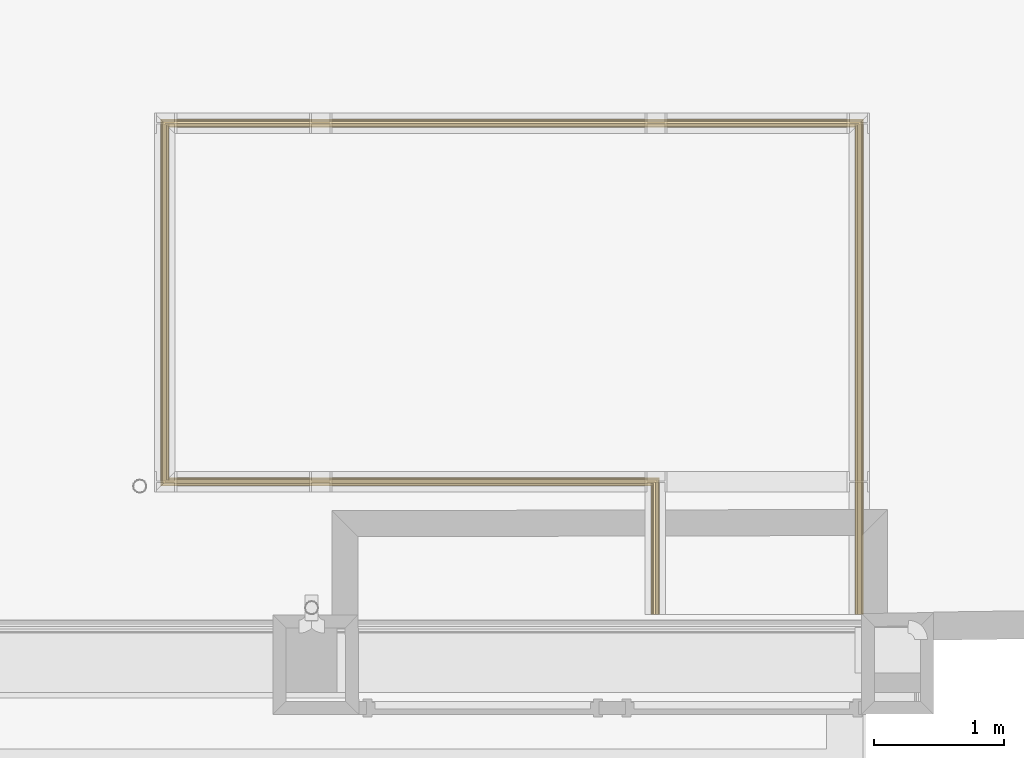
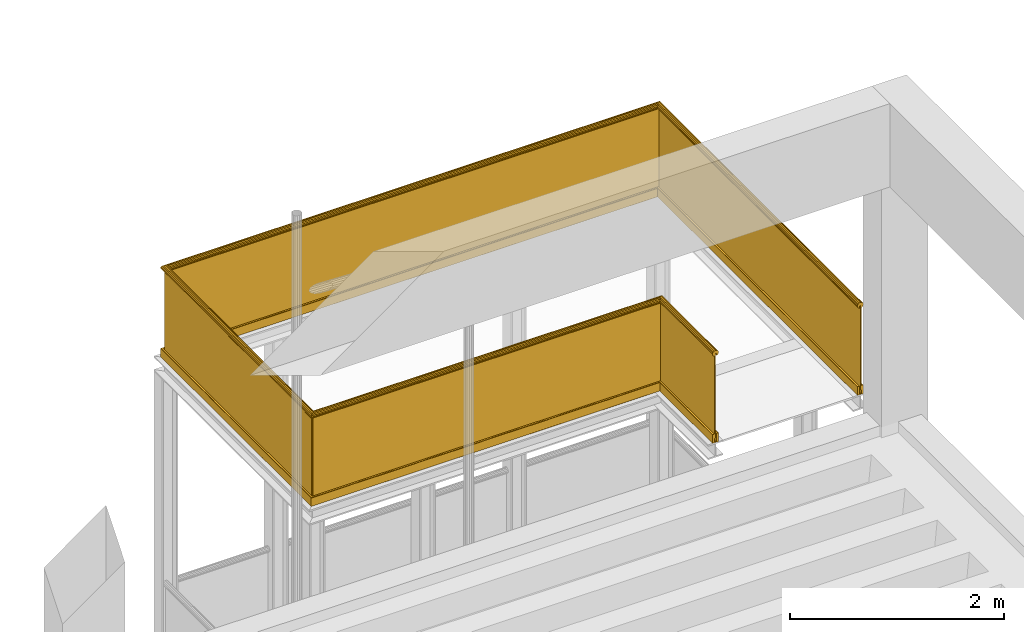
# One storey, part 33 of 108: 1 railing.
"""IFC2X3 building model written with IfcOpenShell, lengths in metres."""

from ifc_helpers import new_model, entity, si_unit, converted_unit, derived_unit, money_unit, direction, frame, origin_with_axes, place, context, subcontext, project, spatial, faceted_brep, material, type_object, element, save


model = new_model("IFC2X3")

# Units and contexts
model_context = context("Model", 3, precision=1e-05, world=origin_with_axes(), true_north=direction((0.0, 1.0)))
body_context = subcontext(model_context, "Body", "Model", "MODEL_VIEW", scale=1.0)
ifc_project = project(units=[si_unit("LENGTHUNIT", "METRE"), si_unit("AREAUNIT", "SQUARE_METRE"), si_unit("VOLUMEUNIT", "CUBIC_METRE"), si_unit("ABSORBEDDOSEUNIT", "GRAY"), si_unit("AMOUNTOFSUBSTANCEUNIT", "MOLE"), si_unit("DOSEEQUIVALENTUNIT", "SIEVERT"), si_unit("ELECTRICCAPACITANCEUNIT", "FARAD"), si_unit("ELECTRICCHARGEUNIT", "COULOMB"), si_unit("ELECTRICCONDUCTANCEUNIT", "SIEMENS"), si_unit("ELECTRICCURRENTUNIT", "AMPERE"), si_unit("ELECTRICRESISTANCEUNIT", "OHM"), si_unit("ELECTRICVOLTAGEUNIT", "VOLT"), si_unit("ENERGYUNIT", "JOULE"), si_unit("FORCEUNIT", "NEWTON"), si_unit("FREQUENCYUNIT", "HERTZ"), si_unit("ILLUMINANCEUNIT", "LUX"), si_unit("INDUCTANCEUNIT", "HENRY"), si_unit("LUMINOUSFLUXUNIT", "LUMEN"), si_unit("LUMINOUSINTENSITYUNIT", "CANDELA"), si_unit("MAGNETICFLUXDENSITYUNIT", "TESLA"), si_unit("MAGNETICFLUXUNIT", "WEBER"), si_unit("MASSUNIT", "GRAM"), converted_unit("PLANEANGLEUNIT", "degree", entity("IfcReal", 0.0174532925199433), si_unit("PLANEANGLEUNIT", "RADIAN"), dimensions=[0, 0, 0, 0, 0, 0, 0]), si_unit("POWERUNIT", "WATT"), si_unit("PRESSUREUNIT", "PASCAL"), si_unit("RADIOACTIVITYUNIT", "BECQUEREL"), si_unit("SOLIDANGLEUNIT", "STERADIAN"), si_unit("THERMODYNAMICTEMPERATUREUNIT", "KELVIN"), si_unit("TIMEUNIT", "SECOND"), derived_unit("ACCELERATIONUNIT", [(si_unit("LENGTHUNIT", "METRE"), 1), (si_unit("TIMEUNIT", "SECOND"), -2)]), derived_unit("ANGULARVELOCITYUNIT", [(converted_unit("PLANEANGLEUNIT", "degree", entity("IfcReal", 0.0174532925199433), si_unit("PLANEANGLEUNIT", "RADIAN"), dimensions=[0, 0, 0, 0, 0, 0, 0]), 1), (si_unit("TIMEUNIT", "SECOND"), -1)]), derived_unit("CURVATUREUNIT", [(converted_unit("PLANEANGLEUNIT", "degree", entity("IfcReal", 0.0174532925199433), si_unit("PLANEANGLEUNIT", "RADIAN"), dimensions=[0, 0, 0, 0, 0, 0, 0]), 1), (si_unit("LENGTHUNIT", "METRE"), -1)]), derived_unit("DYNAMICVISCOSITYUNIT", [(si_unit("PRESSUREUNIT", "PASCAL"), 1), (si_unit("TIMEUNIT", "SECOND"), 1)]), derived_unit("HEATFLUXDENSITYUNIT", [(si_unit("POWERUNIT", "WATT"), 1), (si_unit("LENGTHUNIT", "METRE"), -2)]), derived_unit("HEATINGVALUEUNIT", [(si_unit("ENERGYUNIT", "JOULE"), 1), (si_unit("MASSUNIT", "GRAM"), -1)]), derived_unit("INTEGERCOUNTRATEUNIT", [(si_unit("TIMEUNIT", "SECOND"), -1)]), derived_unit("IONCONCENTRATIONUNIT", [(si_unit("MASSUNIT", "GRAM"), 1), (si_unit("VOLUMEUNIT", "CUBIC_METRE"), -1)]), derived_unit("ISOTHERMALMOISTURECAPACITYUNIT", [(si_unit("VOLUMEUNIT", "CUBIC_METRE"), 1), (si_unit("MASSUNIT", "GRAM"), -1)]), derived_unit("KINEMATICVISCOSITYUNIT", [(si_unit("AREAUNIT", "SQUARE_METRE"), 1), (si_unit("TIMEUNIT", "SECOND"), -1)]), derived_unit("LINEARFORCEUNIT", [(si_unit("FORCEUNIT", "NEWTON"), 1), (si_unit("LENGTHUNIT", "METRE"), -1)]), derived_unit("LINEARMOMENTUNIT", [(si_unit("FORCEUNIT", "NEWTON"), 1), (si_unit("LENGTHUNIT", "METRE"), -1)]), derived_unit("LINEARSTIFFNESSUNIT", [(si_unit("FORCEUNIT", "NEWTON"), 1), (si_unit("LENGTHUNIT", "METRE"), -1)]), derived_unit("LINEARVELOCITYUNIT", [(si_unit("LENGTHUNIT", "METRE"), 1), (si_unit("TIMEUNIT", "SECOND"), -1)]), derived_unit("LUMINOUSINTENSITYDISTRIBUTIONUNIT", [(si_unit("LUMINOUSINTENSITYUNIT", "CANDELA"), 1), (si_unit("LUMINOUSFLUXUNIT", "LUMEN"), -1)]), derived_unit("MASSDENSITYUNIT", [(si_unit("MASSUNIT", "GRAM"), 1), (si_unit("VOLUMEUNIT", "CUBIC_METRE"), -1)]), derived_unit("MASSFLOWRATEUNIT", [(si_unit("MASSUNIT", "GRAM"), 1), (si_unit("TIMEUNIT", "SECOND"), -1)]), derived_unit("MASSPERLENGTHUNIT", [(si_unit("MASSUNIT", "GRAM"), 1), (si_unit("LENGTHUNIT", "METRE"), -1)]), derived_unit("MODULUSOFELASTICITYUNIT", [(si_unit("FORCEUNIT", "NEWTON"), 1), (si_unit("AREAUNIT", "SQUARE_METRE"), -1)]), derived_unit("MODULUSOFLINEARSUBGRADEREACTIONUNIT", [(si_unit("FORCEUNIT", "NEWTON"), 1), (si_unit("LENGTHUNIT", "METRE"), -2)]), derived_unit("MODULUSOFROTATIONALSUBGRADEREACTIONUNIT", [(si_unit("FORCEUNIT", "NEWTON"), 1), (si_unit("LENGTHUNIT", "METRE"), 1)]), derived_unit("MODULUSOFSUBGRADEREACTIONUNIT", [(si_unit("FORCEUNIT", "NEWTON"), 1), (si_unit("VOLUMEUNIT", "CUBIC_METRE"), -1)]), derived_unit("MOISTUREDIFFUSIVITYUNIT", [(si_unit("VOLUMEUNIT", "CUBIC_METRE"), 1), (si_unit("TIMEUNIT", "SECOND"), -1)]), derived_unit("MOLECULARWEIGHTUNIT", [(si_unit("MASSUNIT", "GRAM"), 1), (si_unit("AMOUNTOFSUBSTANCEUNIT", "MOLE"), -1)]), derived_unit("PLANARFORCEUNIT", [(si_unit("FORCEUNIT", "NEWTON"), 1), (si_unit("LENGTHUNIT", "METRE"), -2)]), derived_unit("ROTATIONALFREQUENCYUNIT", [(si_unit("TIMEUNIT", "SECOND"), -1)]), derived_unit("ROTATIONALMASSUNIT", [(si_unit("MASSUNIT", "GRAM"), 1), (si_unit("LENGTHUNIT", "METRE"), 2)]), derived_unit("ROTATIONALSTIFFNESSUNIT", [(si_unit("FORCEUNIT", "NEWTON"), 1), (si_unit("LENGTHUNIT", "METRE"), 1), (converted_unit("PLANEANGLEUNIT", "degree", entity("IfcReal", 0.0174532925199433), si_unit("PLANEANGLEUNIT", "RADIAN"), dimensions=[0, 0, 0, 0, 0, 0, 0]), -1)]), derived_unit("SECTIONAREAINTEGRALUNIT", [(si_unit("LENGTHUNIT", "METRE"), 5)]), derived_unit("SECTIONMODULUSUNIT", [(si_unit("LENGTHUNIT", "METRE"), 3)]), derived_unit("SHEARMODULUSUNIT", [(si_unit("FORCEUNIT", "NEWTON"), 1), (si_unit("AREAUNIT", "SQUARE_METRE"), -1)]), derived_unit("SOUNDPOWERUNIT", [(si_unit("ENERGYUNIT", "JOULE"), 1), (si_unit("TIMEUNIT", "SECOND"), -1)]), derived_unit("SPECIFICHEATCAPACITYUNIT", [(si_unit("FORCEUNIT", "NEWTON"), 1), (si_unit("MASSUNIT", "GRAM"), -1), (si_unit("THERMODYNAMICTEMPERATUREUNIT", "KELVIN"), -1)]), derived_unit("TEMPERATUREGRADIENTUNIT", [(si_unit("THERMODYNAMICTEMPERATUREUNIT", "KELVIN"), 1), (si_unit("LENGTHUNIT", "METRE"), -1)]), derived_unit("THERMALADMITTANCEUNIT", [(si_unit("POWERUNIT", "WATT"), 1), (si_unit("AREAUNIT", "SQUARE_METRE"), -1), (si_unit("THERMODYNAMICTEMPERATUREUNIT", "KELVIN"), -1)]), derived_unit("THERMALCONDUCTANCEUNIT", [(si_unit("POWERUNIT", "WATT"), 1), (si_unit("LENGTHUNIT", "METRE"), -1), (si_unit("THERMODYNAMICTEMPERATUREUNIT", "KELVIN"), -1)]), derived_unit("THERMALEXPANSIONCOEFFICIENTUNIT", [(si_unit("THERMODYNAMICTEMPERATUREUNIT", "KELVIN"), -1)]), derived_unit("THERMALRESISTANCEUNIT", [(si_unit("AREAUNIT", "SQUARE_METRE"), 1), (si_unit("POWERUNIT", "WATT"), -1)]), derived_unit("THERMALTRANSMITTANCEUNIT", [(si_unit("POWERUNIT", "WATT"), 1), (si_unit("AREAUNIT", "SQUARE_METRE"), -1), (si_unit("THERMODYNAMICTEMPERATUREUNIT", "KELVIN"), -1)]), derived_unit("TORQUEUNIT", [(si_unit("FORCEUNIT", "NEWTON"), 1), (si_unit("LENGTHUNIT", "METRE"), 1)]), derived_unit("VAPORPERMEABILITYUNIT", [(si_unit("MASSUNIT", "GRAM"), 1), (si_unit("TIMEUNIT", "SECOND"), -1)]), derived_unit("VOLUMETRICFLOWRATEUNIT", [(si_unit("VOLUMEUNIT", "CUBIC_METRE"), 1), (si_unit("TIMEUNIT", "SECOND"), -1)]), derived_unit("WARPINGCONSTANTUNIT", [(si_unit("LENGTHUNIT", "METRE"), 6)]), derived_unit("WARPINGMOMENTUNIT", [(si_unit("FORCEUNIT", "NEWTON"), 1), (si_unit("LENGTHUNIT", "METRE"), 2)]), money_unit("GBP")], contexts=[model_context])

# Site, building, storey
site_placement = place(None, origin_with_axes())
site = spatial("IfcSite", under=ifc_project, at=site_placement, Name="Site", CompositionType="ELEMENT")
building_placement = place(site_placement, origin_with_axes())
building = spatial("IfcBuilding", under=site, at=building_placement, Name="Building01", CompositionType="ELEMENT")
storey_placement = place(building_placement, origin_with_axes())
storey = spatial("IfcBuildingStorey", under=building, at=storey_placement, Name="GF", CompositionType="ELEMENT", Elevation=0.0)

# Railing
ifc_material = material(Name="A_BSUK_Steel_Miscellaneous")
railing_type = type_object("IfcRailingType", Name="A-RailingGlassPanel-1050mm", PredefinedType="NOTDEFINED")
railing_placement = place(storey_placement, frame((26.411335, 14.9, 12.171013), z_axis=(0.0, 0.0, 1.0), x_axis=(1.0, 0.0, 0.0)))
element("IfcRailing", 1, at=railing_placement, inside=storey, type_object=railing_type, material=ifc_material, Name="A-RailingGlassPanel-1050mm", ObjectType="A-RailingGlassPanel-1050mm", PredefinedType="HANDRAIL", context=body_context, shape_type="Brep", body=[
    faceted_brep([(0.0125, 3.776081, 1.0125), (-0.0125, 3.751081, 1.0125), (-0.0125, 3.751081, 0.9875), (-0.023022, 3.740559, 0.99456), (-0.030045, 3.733536, 1.005108), (-0.0325, 3.731081, 1.017539), (-0.030015, 3.733566, 1.029964), (-0.022967, 3.740614, 1.040495), (-0.012428, 3.751153, 1.04753), (0.0, 3.763581, 1.05), (0.012428, 3.776009, 1.04753), (0.022967, 3.786548, 1.040495), (0.030015, 3.793596, 1.029964), (0.0325, 3.796081, 1.017539), (0.030045, 3.793625, 1.005108), (0.023022, 3.786603, 0.99456), (0.0125, 3.776081, 0.9875), (0.023022, 0.0, 0.99456), (0.0125, 0.0, 0.9875), (0.030045, 0.0, 1.005108), (0.0325, 0.0, 1.017539), (0.030015, 0.0, 1.029964), (0.022967, 0.0, 1.040495), (0.012428, 0.0, 1.04753), (0.0, 0.0, 1.05), (-0.012428, 0.0, 1.04753), (-0.022967, 0.0, 1.040495), (-0.030015, 0.0, 1.029964), (-0.0325, 0.0, 1.017539), (-0.030045, 0.0, 1.005108), (-0.023022, 0.0, 0.99456), (-0.0125, 0.0, 0.9875), (-0.0125, 0.0, 1.0125), (0.0125, 0.0, 1.0125)], [[[0, 1, 2, 3, 4, 5, 6, 7, 8, 9, 10, 11, 12, 13, 14, 15, 16]], [[15, 17, 18, 16]], [[14, 19, 17, 15]], [[13, 20, 19, 14]], [[12, 21, 20, 13]], [[11, 22, 21, 12]], [[10, 23, 22, 11]], [[9, 24, 23, 10]], [[8, 25, 24, 9]], [[7, 26, 25, 8]], [[6, 27, 26, 7]], [[5, 28, 27, 6]], [[4, 29, 28, 5]], [[3, 30, 29, 4]], [[2, 31, 30, 3]], [[1, 32, 31, 2]], [[0, 33, 32, 1]], [[16, 18, 33, 0]], [[18, 17, 19, 20, 21, 22, 23, 24, 25, 26, 27, 28, 29, 30, 31, 32, 33]]]),
    faceted_brep([(-5.333701, 3.776081, 1.0125), (-5.308701, 3.751081, 1.0125), (-5.308701, 3.751081, 0.9875), (-5.298179, 3.740559, 0.99456), (-5.291156, 3.733536, 1.005108), (-5.288701, 3.731081, 1.017539), (-5.291186, 3.733566, 1.029964), (-5.298234, 3.740614, 1.040495), (-5.308773, 3.751153, 1.04753), (-5.321201, 3.763581, 1.05), (-5.333629, 3.776009, 1.04753), (-5.344168, 3.786548, 1.040495), (-5.351216, 3.793596, 1.029964), (-5.353701, 3.796081, 1.017539), (-5.351246, 3.793625, 1.005108), (-5.344223, 3.786603, 0.99456), (-5.333701, 3.776081, 0.9875), (0.0125, 3.776081, 0.9875), (0.023022, 3.786603, 0.99456), (0.030045, 3.793625, 1.005108), (0.0325, 3.796081, 1.017539), (0.030015, 3.793596, 1.029964), (0.022967, 3.786548, 1.040495), (0.012428, 3.776009, 1.04753), (0.0, 3.763581, 1.05), (-0.012428, 3.751153, 1.04753), (-0.022967, 3.740614, 1.040495), (-0.030015, 3.733566, 1.029964), (-0.0325, 3.731081, 1.017539), (-0.030045, 3.733536, 1.005108), (-0.023022, 3.740559, 0.99456), (-0.0125, 3.751081, 0.9875), (-0.0125, 3.751081, 1.0125), (0.0125, 3.776081, 1.0125)], [[[0, 1, 2, 3, 4, 5, 6, 7, 8, 9, 10, 11, 12, 13, 14, 15, 16]], [[17, 18, 19, 20, 21, 22, 23, 24, 25, 26, 27, 28, 29, 30, 31, 32, 33]], [[30, 3, 2, 31]], [[29, 4, 3, 30]], [[28, 5, 4, 29]], [[27, 6, 5, 28]], [[26, 7, 6, 27]], [[25, 8, 7, 26]], [[24, 9, 8, 25]], [[23, 10, 9, 24]], [[22, 11, 10, 23]], [[21, 12, 11, 22]], [[20, 13, 12, 21]], [[19, 14, 13, 20]], [[18, 15, 14, 19]], [[17, 16, 15, 18]], [[1, 32, 31, 2]], [[0, 33, 32, 1]], [[16, 17, 33, 0]]]),
    faceted_brep([(-5.333701, 1.003423, 1.0125), (-5.308701, 1.028423, 1.0125), (-5.308701, 1.028423, 0.9875), (-5.298179, 1.038945, 0.99456), (-5.291156, 1.045967, 1.005108), (-5.288701, 1.048423, 1.017539), (-5.291186, 1.045938, 1.029964), (-5.298234, 1.03889, 1.040495), (-5.308773, 1.028351, 1.04753), (-5.321201, 1.015923, 1.05), (-5.333629, 1.003495, 1.04753), (-5.344168, 0.992956, 1.040495), (-5.351216, 0.985908, 1.029964), (-5.353701, 0.983423, 1.017539), (-5.351246, 0.985878, 1.005108), (-5.344223, 0.992901, 0.99456), (-5.333701, 1.003423, 0.9875), (-5.333701, 3.776081, 0.9875), (-5.344223, 3.786603, 0.99456), (-5.351246, 3.793625, 1.005108), (-5.353701, 3.796081, 1.017539), (-5.351216, 3.793596, 1.029964), (-5.344168, 3.786548, 1.040495), (-5.333629, 3.776009, 1.04753), (-5.321201, 3.763581, 1.05), (-5.308773, 3.751153, 1.04753), (-5.298234, 3.740614, 1.040495), (-5.291186, 3.733566, 1.029964), (-5.288701, 3.731081, 1.017539), (-5.291156, 3.733536, 1.005108), (-5.298179, 3.740559, 0.99456), (-5.308701, 3.751081, 0.9875), (-5.308701, 3.751081, 1.0125), (-5.333701, 3.776081, 1.0125)], [[[0, 1, 2, 3, 4, 5, 6, 7, 8, 9, 10, 11, 12, 13, 14, 15, 16]], [[17, 18, 19, 20, 21, 22, 23, 24, 25, 26, 27, 28, 29, 30, 31, 32, 33]], [[30, 3, 2, 31]], [[29, 4, 3, 30]], [[28, 5, 4, 29]], [[27, 6, 5, 28]], [[26, 7, 6, 27]], [[25, 8, 7, 26]], [[24, 9, 8, 25]], [[23, 10, 9, 24]], [[22, 11, 10, 23]], [[21, 12, 11, 22]], [[20, 13, 12, 21]], [[19, 14, 13, 20]], [[18, 15, 14, 19]], [[17, 16, 15, 18]], [[1, 32, 31, 2]], [[0, 33, 32, 1]], [[16, 17, 33, 0]]]),
    faceted_brep([(-1.5753, 1.003423, 1.0125), (-1.5503, 1.028423, 1.0125), (-1.5503, 1.028423, 0.9875), (-1.539778, 1.038945, 0.99456), (-1.532755, 1.045967, 1.005108), (-1.5303, 1.048423, 1.017539), (-1.532785, 1.045938, 1.029964), (-1.539833, 1.03889, 1.040495), (-1.550372, 1.028351, 1.04753), (-1.5628, 1.015923, 1.05), (-1.575228, 1.003495, 1.04753), (-1.585767, 0.992956, 1.040495), (-1.592815, 0.985908, 1.029964), (-1.5953, 0.983423, 1.017539), (-1.592845, 0.985878, 1.005108), (-1.585822, 0.992901, 0.99456), (-1.5753, 1.003423, 0.9875), (-5.333701, 1.003423, 0.9875), (-5.344223, 0.992901, 0.99456), (-5.351246, 0.985878, 1.005108), (-5.353701, 0.983423, 1.017539), (-5.351216, 0.985908, 1.029964), (-5.344168, 0.992956, 1.040495), (-5.333629, 1.003495, 1.04753), (-5.321201, 1.015923, 1.05), (-5.308773, 1.028351, 1.04753), (-5.298234, 1.03889, 1.040495), (-5.291186, 1.045938, 1.029964), (-5.288701, 1.048423, 1.017539), (-5.291156, 1.045967, 1.005108), (-5.298179, 1.038945, 0.99456), (-5.308701, 1.028423, 0.9875), (-5.308701, 1.028423, 1.0125), (-5.333701, 1.003423, 1.0125)], [[[0, 1, 2, 3, 4, 5, 6, 7, 8, 9, 10, 11, 12, 13, 14, 15, 16]], [[17, 18, 19, 20, 21, 22, 23, 24, 25, 26, 27, 28, 29, 30, 31, 32, 33]], [[30, 3, 2, 31]], [[29, 4, 3, 30]], [[28, 5, 4, 29]], [[27, 6, 5, 28]], [[26, 7, 6, 27]], [[25, 8, 7, 26]], [[24, 9, 8, 25]], [[23, 10, 9, 24]], [[22, 11, 10, 23]], [[21, 12, 11, 22]], [[20, 13, 12, 21]], [[19, 14, 13, 20]], [[18, 15, 14, 19]], [[17, 16, 15, 18]], [[1, 32, 31, 2]], [[0, 33, 32, 1]], [[16, 17, 33, 0]]]),
    faceted_brep([(-1.5753, 1.003423, 0.9875), (-1.585822, 0.992901, 0.99456), (-1.592845, 0.985878, 1.005108), (-1.5953, 0.983423, 1.017539), (-1.592815, 0.985908, 1.029964), (-1.585767, 0.992956, 1.040495), (-1.575228, 1.003495, 1.04753), (-1.5628, 1.015923, 1.05), (-1.550372, 1.028351, 1.04753), (-1.539833, 1.03889, 1.040495), (-1.532785, 1.045938, 1.029964), (-1.5303, 1.048423, 1.017539), (-1.532755, 1.045967, 1.005108), (-1.539778, 1.038945, 0.99456), (-1.5503, 1.028423, 0.9875), (-1.5503, 1.028423, 1.0125), (-1.5753, 1.003423, 1.0125), (-1.539778, 0.0, 0.99456), (-1.5503, 0.0, 0.9875), (-1.532755, 0.0, 1.005108), (-1.5303, 0.0, 1.017539), (-1.532785, 0.0, 1.029964), (-1.539833, 0.0, 1.040495), (-1.550372, 0.0, 1.04753), (-1.5628, 0.0, 1.05), (-1.575228, 0.0, 1.04753), (-1.585767, 0.0, 1.040495), (-1.592815, 0.0, 1.029964), (-1.5953, 0.0, 1.017539), (-1.592845, 0.0, 1.005108), (-1.585822, 0.0, 0.99456), (-1.5753, 0.0, 0.9875), (-1.5503, 0.0, 1.0125), (-1.5753, 0.0, 1.0125)], [[[0, 1, 2, 3, 4, 5, 6, 7, 8, 9, 10, 11, 12, 13, 14, 15, 16]], [[13, 17, 18, 14]], [[12, 19, 17, 13]], [[11, 20, 19, 12]], [[10, 21, 20, 11]], [[9, 22, 21, 10]], [[8, 23, 22, 9]], [[7, 24, 23, 8]], [[6, 25, 24, 7]], [[5, 26, 25, 6]], [[4, 27, 26, 5]], [[3, 28, 27, 4]], [[2, 29, 28, 3]], [[1, 30, 29, 2]], [[0, 31, 30, 1]], [[14, 18, 32, 15]], [[15, 32, 33, 16]], [[16, 33, 31, 0]], [[33, 32, 18, 17, 19, 20, 21, 22, 23, 24, 25, 26, 27, 28, 29, 30, 31]]]),
    faceted_brep([(-0.0295, 3.734081, 0.099925), (-0.0295, 0.0, 0.099925), (-0.0125, 0.0, 0.099925), (-0.0125, 3.751081, 0.099925), (-0.030648, 3.732933, 0.099697), (-0.030648, 0.0, 0.099697), (-0.031253, 3.732328, 0.098792), (-0.031621, 0.0, 0.099046), (-0.031895, 3.731685, 0.09783), (-0.032272, 0.0, 0.098073), (-0.0325, 3.731081, 0.096925), (-0.0325, 0.0, 0.096925), (-0.0325, 3.731081, 0.003), (-0.0325, 0.0, 0.003), (-0.0125, 3.751081, 0.01), (0.0125, 3.776081, 0.01), (0.0125, 3.776081, 0.099925), (0.0295, 3.793081, 0.099925), (0.030409, 3.79399, 0.099317), (0.031362, 3.794943, 0.098681), (0.032272, 3.795852, 0.098073), (0.0325, 3.796081, 0.096925), (0.0325, 3.796081, 0.003), (0.031895, 3.795476, 0.002095), (0.031253, 3.794834, 0.001133), (0.030648, 3.794229, 0.000228), (0.0295, 3.793081, 0.0), (-0.0295, 3.734081, 0.0), (-0.030409, 3.733171, 0.000608), (-0.031362, 3.732218, 0.001244), (-0.032272, 3.731309, 0.001852), (0.0295, 0.0, 0.0), (0.030648, 0.0, 0.000228), (0.031621, 0.0, 0.000879), (0.032272, 0.0, 0.001852), (0.0325, 0.0, 0.003), (0.0325, 0.0, 0.096925), (0.032272, 0.0, 0.098073), (0.031621, 0.0, 0.099046), (0.030648, 0.0, 0.099697), (0.0295, 0.0, 0.099925), (0.0125, 0.0, 0.099925), (0.0125, 0.0, 0.01), (-0.0125, 0.0, 0.01), (-0.032272, 0.0, 0.001852), (-0.031621, 0.0, 0.000879), (-0.030648, 0.0, 0.000228), (-0.0295, 0.0, 0.0)], [[[0, 1, 2, 3]], [[4, 5, 1, 0]], [[6, 7, 5]], [[8, 9, 7]], [[10, 11, 9]], [[9, 8, 10]], [[7, 6, 8]], [[5, 4, 6]], [[12, 13, 11, 10]], [[14, 15, 16, 17, 18, 19, 20, 21, 22, 23, 24, 25, 26, 27, 28, 29, 30, 12, 10, 8, 6, 4, 0, 3]], [[31, 32, 33, 34, 35, 36, 37, 38, 39, 40, 41, 42, 43, 2, 1, 5, 7, 9, 11, 13, 44, 45, 46, 47]], [[30, 44, 13, 12]], [[30, 29, 45]], [[29, 28, 46]], [[28, 27, 47]], [[47, 46, 28]], [[46, 45, 29]], [[45, 44, 30]], [[26, 31, 47, 27]], [[25, 32, 31, 26]], [[25, 24, 33]], [[24, 23, 34]], [[23, 22, 35]], [[35, 34, 23]], [[34, 33, 24]], [[33, 32, 25]], [[21, 36, 35, 22]], [[20, 37, 36, 21]], [[19, 38, 37]], [[18, 39, 38]], [[17, 40, 39]], [[39, 18, 17]], [[38, 19, 18]], [[37, 20, 19]], [[16, 41, 40, 17]], [[15, 42, 41, 16]], [[14, 43, 42, 15]], [[3, 2, 43, 14]]]),
    faceted_brep([(-5.291701, 3.734081, 0.099925), (-0.0295, 3.734081, 0.099925), (-0.0125, 3.751081, 0.099925), (-5.308701, 3.751081, 0.099925), (-5.288701, 3.731081, 0.096925), (-0.0325, 3.731081, 0.096925), (-0.032272, 3.731309, 0.098073), (-0.031362, 3.732218, 0.098681), (-5.289948, 3.732328, 0.098792), (-0.030409, 3.733171, 0.099317), (-5.290553, 3.732933, 0.099697), (-5.289306, 3.731685, 0.09783), (-5.288701, 3.731081, 0.003), (-0.0325, 3.731081, 0.003), (-5.308701, 3.751081, 0.01), (-5.333701, 3.776081, 0.01), (-5.333701, 3.776081, 0.099925), (-5.350701, 3.793081, 0.099925), (-5.35161, 3.79399, 0.099317), (-5.352563, 3.794943, 0.098681), (-5.353473, 3.795852, 0.098073), (-5.353701, 3.796081, 0.096925), (-5.353701, 3.796081, 0.003), (-5.353096, 3.795476, 0.002095), (-5.352454, 3.794834, 0.001133), (-5.351849, 3.794229, 0.000228), (-5.350701, 3.793081, 0.0), (-5.291701, 3.734081, 0.0), (-5.290792, 3.733171, 0.000608), (-5.289839, 3.732218, 0.001244), (-5.288929, 3.731309, 0.001852), (-0.031895, 3.731685, 0.002095), (-0.031253, 3.732328, 0.001133), (-0.030648, 3.732933, 0.000228), (-0.0295, 3.734081, 0.0), (0.0295, 3.793081, 0.0), (0.030409, 3.79399, 0.000608), (0.031362, 3.794943, 0.001244), (0.032272, 3.795852, 0.001852), (0.0325, 3.796081, 0.003), (0.0325, 3.796081, 0.096925), (0.031895, 3.795476, 0.09783), (0.031253, 3.794834, 0.098792), (0.030648, 3.794229, 0.099697), (0.0295, 3.793081, 0.099925), (0.0125, 3.776081, 0.099925), (0.0125, 3.776081, 0.01), (-0.0125, 3.751081, 0.01)], [[[0, 1, 2, 3]], [[4, 5, 6]], [[6, 7, 8]], [[7, 9, 10]], [[10, 9, 1]], [[1, 0, 10]], [[10, 8, 7]], [[8, 11, 6]], [[6, 11, 4]], [[12, 13, 5, 4]], [[14, 15, 16, 17, 18, 19, 20, 21, 22, 23, 24, 25, 26, 27, 28, 29, 30, 12, 4, 11, 8, 10, 0, 3]], [[2, 1, 9, 7, 6, 5, 13, 31, 32, 33, 34, 35, 36, 37, 38, 39, 40, 41, 42, 43, 44, 45, 46, 47]], [[33, 28, 27]], [[29, 28, 33]], [[30, 29, 32]], [[13, 12, 30]], [[30, 31, 13]], [[32, 31, 30]], [[33, 32, 29]], [[27, 34, 33]], [[26, 35, 34, 27]], [[23, 22, 39]], [[37, 24, 23]], [[36, 25, 24]], [[26, 25, 36]], [[36, 35, 26]], [[24, 37, 36]], [[23, 38, 37]], [[39, 38, 23]], [[21, 40, 39, 22]], [[44, 43, 18]], [[18, 43, 42]], [[19, 42, 41]], [[41, 40, 21]], [[21, 20, 41]], [[41, 20, 19]], [[42, 19, 18]], [[18, 17, 44]], [[16, 45, 44, 17]], [[15, 46, 45, 16]], [[14, 47, 46, 15]], [[3, 2, 47, 14]]]),
    faceted_brep([(-5.291701, 1.045423, 0.099925), (-5.291701, 3.734081, 0.099925), (-5.308701, 3.751081, 0.099925), (-5.308701, 1.028423, 0.099925), (-5.288701, 1.048423, 0.096925), (-5.288701, 3.731081, 0.096925), (-5.288929, 3.731309, 0.098073), (-5.289839, 3.732218, 0.098681), (-5.289948, 1.047176, 0.098792), (-5.290792, 3.733171, 0.099317), (-5.290553, 1.046571, 0.099697), (-5.289306, 1.047818, 0.09783), (-5.288701, 1.048423, 0.003), (-5.288701, 3.731081, 0.003), (-5.308701, 1.028423, 0.01), (-5.333701, 1.003423, 0.01), (-5.333701, 1.003423, 0.099925), (-5.350701, 0.986423, 0.099925), (-5.35161, 0.985514, 0.099317), (-5.352563, 0.98456, 0.098681), (-5.353473, 0.983651, 0.098073), (-5.353701, 0.983423, 0.096925), (-5.353701, 0.983423, 0.003), (-5.353096, 0.984028, 0.002095), (-5.352454, 0.98467, 0.001133), (-5.351849, 0.985275, 0.000228), (-5.350701, 0.986423, 0.0), (-5.291701, 1.045423, 0.0), (-5.290792, 1.046332, 0.000608), (-5.289839, 1.047285, 0.001244), (-5.288929, 1.048194, 0.001852), (-5.289306, 3.731685, 0.002095), (-5.289948, 3.732328, 0.001133), (-5.290553, 3.732933, 0.000228), (-5.291701, 3.734081, 0.0), (-5.350701, 3.793081, 0.0), (-5.35161, 3.79399, 0.000608), (-5.352563, 3.794943, 0.001244), (-5.353473, 3.795852, 0.001852), (-5.353701, 3.796081, 0.003), (-5.353701, 3.796081, 0.096925), (-5.353096, 3.795476, 0.09783), (-5.352454, 3.794834, 0.098792), (-5.351849, 3.794229, 0.099697), (-5.350701, 3.793081, 0.099925), (-5.333701, 3.776081, 0.099925), (-5.333701, 3.776081, 0.01), (-5.308701, 3.751081, 0.01)], [[[0, 1, 2, 3]], [[4, 5, 6]], [[6, 7, 8]], [[7, 9, 10]], [[10, 9, 1]], [[1, 0, 10]], [[10, 8, 7]], [[8, 11, 6]], [[6, 11, 4]], [[12, 13, 5, 4]], [[14, 15, 16, 17, 18, 19, 20, 21, 22, 23, 24, 25, 26, 27, 28, 29, 30, 12, 4, 11, 8, 10, 0, 3]], [[2, 1, 9, 7, 6, 5, 13, 31, 32, 33, 34, 35, 36, 37, 38, 39, 40, 41, 42, 43, 44, 45, 46, 47]], [[33, 28, 27]], [[29, 28, 33]], [[30, 29, 32]], [[13, 12, 30]], [[30, 31, 13]], [[32, 31, 30]], [[33, 32, 29]], [[27, 34, 33]], [[26, 35, 34, 27]], [[23, 22, 39]], [[37, 24, 23]], [[36, 25, 24]], [[26, 25, 36]], [[36, 35, 26]], [[24, 37, 36]], [[23, 38, 37]], [[39, 38, 23]], [[21, 40, 39, 22]], [[44, 43, 18]], [[18, 43, 42]], [[19, 42, 41]], [[41, 40, 21]], [[21, 20, 41]], [[41, 20, 19]], [[42, 19, 18]], [[18, 17, 44]], [[16, 45, 44, 17]], [[15, 46, 45, 16]], [[14, 47, 46, 15]], [[3, 2, 47, 14]]]),
    faceted_brep([(-1.5333, 1.045423, 0.099925), (-5.291701, 1.045423, 0.099925), (-5.308701, 1.028423, 0.099925), (-1.5503, 1.028423, 0.099925), (-1.530905, 1.047818, 0.09783), (-1.5303, 1.048423, 0.096925), (-5.288701, 1.048423, 0.096925), (-5.288929, 1.048194, 0.098073), (-5.289839, 1.047285, 0.098681), (-1.531547, 1.047176, 0.098792), (-5.290792, 1.046332, 0.099317), (-1.532152, 1.046571, 0.099697), (-1.5303, 1.048423, 0.003), (-5.288701, 1.048423, 0.003), (-1.5503, 1.028423, 0.01), (-1.5753, 1.003423, 0.01), (-1.5753, 1.003423, 0.099925), (-1.5923, 0.986423, 0.099925), (-1.593209, 0.985514, 0.099317), (-1.594162, 0.98456, 0.098681), (-1.595072, 0.983651, 0.098073), (-1.5953, 0.983423, 0.096925), (-1.5953, 0.983423, 0.003), (-1.594695, 0.984028, 0.002095), (-1.594053, 0.98467, 0.001133), (-1.593448, 0.985275, 0.000228), (-1.5923, 0.986423, 0.0), (-1.5333, 1.045423, 0.0), (-1.532391, 1.046332, 0.000608), (-1.531438, 1.047285, 0.001244), (-1.530528, 1.048194, 0.001852), (-5.289306, 1.047818, 0.002095), (-5.289948, 1.047176, 0.001133), (-5.290553, 1.046571, 0.000228), (-5.291701, 1.045423, 0.0), (-5.350701, 0.986423, 0.0), (-5.35161, 0.985514, 0.000608), (-5.352563, 0.98456, 0.001244), (-5.353473, 0.983651, 0.001852), (-5.353701, 0.983423, 0.003), (-5.353701, 0.983423, 0.096925), (-5.353096, 0.984028, 0.09783), (-5.352454, 0.98467, 0.098792), (-5.351849, 0.985275, 0.099697), (-5.350701, 0.986423, 0.099925), (-5.333701, 1.003423, 0.099925), (-5.333701, 1.003423, 0.01), (-5.308701, 1.028423, 0.01)], [[[0, 1, 2, 3]], [[4, 5, 6]], [[7, 8, 9]], [[8, 10, 11]], [[0, 11, 10]], [[10, 1, 0]], [[11, 9, 8]], [[9, 4, 7]], [[6, 7, 4]], [[12, 13, 6, 5]], [[14, 15, 16, 17, 18, 19, 20, 21, 22, 23, 24, 25, 26, 27, 28, 29, 30, 12, 5, 4, 9, 11, 0, 3]], [[2, 1, 10, 8, 7, 6, 13, 31, 32, 33, 34, 35, 36, 37, 38, 39, 40, 41, 42, 43, 44, 45, 46, 47]], [[33, 28, 27]], [[28, 33, 32]], [[29, 32, 31]], [[13, 12, 30]], [[30, 31, 13]], [[31, 30, 29]], [[32, 29, 28]], [[27, 34, 33]], [[26, 35, 34, 27]], [[22, 39, 38]], [[37, 24, 23]], [[36, 25, 24]], [[25, 36, 35]], [[35, 26, 25]], [[24, 37, 36]], [[23, 38, 37]], [[38, 23, 22]], [[21, 40, 39, 22]], [[44, 43, 18]], [[19, 18, 43]], [[20, 19, 42]], [[41, 40, 21]], [[21, 20, 41]], [[42, 41, 20]], [[43, 42, 19]], [[18, 17, 44]], [[16, 45, 44, 17]], [[15, 46, 45, 16]], [[14, 47, 46, 15]], [[3, 2, 47, 14]]]),
    faceted_brep([(-1.5503, 1.028423, 0.099925), (-1.5503, 0.0, 0.099925), (-1.5333, 0.0, 0.099925), (-1.5333, 1.045423, 0.099925), (-1.530528, 1.048194, 0.098073), (-1.530528, 0.0, 0.098073), (-1.5303, 0.0, 0.096925), (-1.5303, 1.048423, 0.096925), (-1.531438, 1.047285, 0.098681), (-1.531179, 0.0, 0.099046), (-1.532391, 1.046332, 0.099317), (-1.532152, 0.0, 0.099697), (-1.5303, 0.0, 0.003), (-1.5303, 1.048423, 0.003), (-1.530905, 1.047818, 0.002095), (-1.531547, 1.047176, 0.001133), (-1.532152, 1.046571, 0.000228), (-1.5333, 1.045423, 0.0), (-1.5923, 0.986423, 0.0), (-1.593209, 0.985514, 0.000608), (-1.594162, 0.98456, 0.001244), (-1.595072, 0.983651, 0.001852), (-1.5953, 0.983423, 0.003), (-1.5953, 0.983423, 0.096925), (-1.594695, 0.984028, 0.09783), (-1.594053, 0.98467, 0.098792), (-1.593448, 0.985275, 0.099697), (-1.5923, 0.986423, 0.099925), (-1.5753, 1.003423, 0.099925), (-1.5753, 1.003423, 0.01), (-1.5503, 1.028423, 0.01), (-1.5333, 0.0, 0.0), (-1.532152, 0.0, 0.000228), (-1.531179, 0.0, 0.000879), (-1.530528, 0.0, 0.001852), (-1.5503, 0.0, 0.01), (-1.5753, 0.0, 0.01), (-1.5753, 0.0, 0.099925), (-1.5923, 0.0, 0.099925), (-1.593448, 0.0, 0.099697), (-1.594421, 0.0, 0.099046), (-1.595072, 0.0, 0.098073), (-1.5953, 0.0, 0.096925), (-1.5953, 0.0, 0.003), (-1.595072, 0.0, 0.001852), (-1.594421, 0.0, 0.000879), (-1.593448, 0.0, 0.000228), (-1.5923, 0.0, 0.0)], [[[0, 1, 2, 3]], [[4, 5, 6, 7]], [[8, 9, 5]], [[10, 11, 9]], [[3, 2, 11]], [[11, 10, 3]], [[9, 8, 10]], [[5, 4, 8]], [[7, 6, 12, 13]], [[0, 3, 10, 8, 4, 7, 13, 14, 15, 16, 17, 18, 19, 20, 21, 22, 23, 24, 25, 26, 27, 28, 29, 30]], [[31, 32, 33, 34, 12, 6, 5, 9, 11, 2, 1, 35, 36, 37, 38, 39, 40, 41, 42, 43, 44, 45, 46, 47]], [[16, 32, 31, 17]], [[16, 15, 33]], [[15, 14, 34]], [[14, 13, 12]], [[12, 34, 14]], [[34, 33, 15]], [[33, 32, 16]], [[17, 31, 47, 18]], [[21, 44, 43, 22]], [[21, 20, 45]], [[20, 19, 46]], [[19, 18, 47]], [[47, 46, 19]], [[46, 45, 20]], [[45, 44, 21]], [[22, 43, 42, 23]], [[26, 39, 38, 27]], [[25, 40, 39]], [[24, 41, 40]], [[23, 42, 41]], [[41, 24, 23]], [[40, 25, 24]], [[39, 26, 25]], [[27, 38, 37, 28]], [[28, 37, 36, 29]], [[29, 36, 35, 30]], [[30, 35, 1, 0]]]),
    faceted_brep([(0.0, 0.0, 0.05), (0.0, 0.0, 1.025), (0.0, 1.254527, 1.025), (0.0, 1.254527, 0.05), (0.01, 1.254527, 0.05), (0.01, 1.254527, 1.025), (0.01, 0.0, 1.025), (0.01, 0.0, 0.05)], [[[0, 1, 2, 3]], [[4, 5, 6, 7]], [[0, 7, 6, 1]], [[1, 6, 5, 2]], [[2, 5, 4, 3]], [[3, 4, 7, 0]]]),
    faceted_brep([(0.0, 1.254527, 0.05), (0.0, 1.254527, 1.025), (0.0, 2.509054, 1.025), (0.0, 2.509054, 0.05), (0.01, 2.509054, 0.05), (0.01, 2.509054, 1.025), (0.01, 1.254527, 1.025), (0.01, 1.254527, 0.05)], [[[0, 1, 2, 3]], [[4, 5, 6, 7]], [[0, 7, 6, 1]], [[1, 6, 5, 2]], [[2, 5, 4, 3]], [[3, 4, 7, 0]]]),
    faceted_brep([(0.0, 2.509054, 0.05), (0.0, 2.509054, 1.025), (0.0, 3.763581, 1.025), (0.0, 3.763581, 0.05), (0.01, 3.763581, 0.05), (0.01, 3.763581, 1.025), (0.01, 2.509054, 1.025), (0.01, 2.509054, 0.05)], [[[0, 1, 2, 3]], [[4, 5, 6, 7]], [[0, 7, 6, 1]], [[1, 6, 5, 2]], [[2, 5, 4, 3]], [[3, 4, 7, 0]]]),
    faceted_brep([(0.0, 3.763581, 0.05), (0.0, 3.763581, 1.025), (-1.330301, 3.763581, 1.025), (-1.330301, 3.763581, 0.05), (-1.330301, 3.773581, 0.05), (-1.330301, 3.773581, 1.025), (0.0, 3.773581, 1.025), (0.0, 3.773581, 0.05)], [[[0, 1, 2, 3]], [[4, 5, 6, 7]], [[0, 7, 6, 1]], [[1, 6, 5, 2]], [[2, 5, 4, 3]], [[3, 4, 7, 0]]]),
    faceted_brep([(-1.330301, 3.763581, 0.05), (-1.330301, 3.763581, 1.025), (-2.660601, 3.763581, 1.025), (-2.660601, 3.763581, 0.05), (-2.660601, 3.773581, 0.05), (-2.660601, 3.773581, 1.025), (-1.330301, 3.773581, 1.025), (-1.330301, 3.773581, 0.05)], [[[0, 1, 2, 3]], [[4, 5, 6, 7]], [[0, 7, 6, 1]], [[1, 6, 5, 2]], [[2, 5, 4, 3]], [[3, 4, 7, 0]]]),
    faceted_brep([(-2.660601, 3.763581, 0.05), (-2.660601, 3.763581, 1.025), (-3.9909, 3.763581, 1.025), (-3.9909, 3.763581, 0.05), (-3.9909, 3.773581, 0.05), (-3.9909, 3.773581, 1.025), (-2.660601, 3.773581, 1.025), (-2.660601, 3.773581, 0.05)], [[[0, 1, 2, 3]], [[4, 5, 6, 7]], [[0, 7, 6, 1]], [[1, 6, 5, 2]], [[2, 5, 4, 3]], [[3, 4, 7, 0]]]),
    faceted_brep([(-3.9909, 3.763581, 0.05), (-3.9909, 3.763581, 1.025), (-5.321201, 3.763581, 1.025), (-5.321201, 3.763581, 0.05), (-5.321201, 3.773581, 0.05), (-5.321201, 3.773581, 1.025), (-3.9909, 3.773581, 1.025), (-3.9909, 3.773581, 0.05)], [[[0, 1, 2, 3]], [[4, 5, 6, 7]], [[0, 7, 6, 1]], [[1, 6, 5, 2]], [[2, 5, 4, 3]], [[3, 4, 7, 0]]]),
    faceted_brep([(-5.321201, 3.763581, 0.05), (-5.321201, 3.763581, 1.025), (-5.321201, 2.389752, 1.025), (-5.321201, 2.389752, 0.05), (-5.331201, 2.389752, 0.05), (-5.331201, 2.389752, 1.025), (-5.331201, 3.763581, 1.025), (-5.331201, 3.763581, 0.05)], [[[0, 1, 2, 3]], [[4, 5, 6, 7]], [[0, 7, 6, 1]], [[1, 6, 5, 2]], [[2, 5, 4, 3]], [[3, 4, 7, 0]]]),
    faceted_brep([(-5.321201, 2.389752, 0.05), (-5.321201, 2.389752, 1.025), (-5.321201, 1.015923, 1.025), (-5.321201, 1.015923, 0.05), (-5.331201, 1.015923, 0.05), (-5.331201, 1.015923, 1.025), (-5.331201, 2.389752, 1.025), (-5.331201, 2.389752, 0.05)], [[[0, 1, 2, 3]], [[4, 5, 6, 7]], [[0, 7, 6, 1]], [[1, 6, 5, 2]], [[2, 5, 4, 3]], [[3, 4, 7, 0]]]),
    faceted_brep([(-5.321201, 1.015923, 0.05), (-5.321201, 1.015923, 1.025), (-4.0684, 1.015923, 1.025), (-4.0684, 1.015923, 0.05), (-4.0684, 1.005923, 0.05), (-4.0684, 1.005923, 1.025), (-5.321201, 1.005923, 1.025), (-5.321201, 1.005923, 0.05)], [[[0, 1, 2, 3]], [[4, 5, 6, 7]], [[0, 7, 6, 1]], [[1, 6, 5, 2]], [[2, 5, 4, 3]], [[3, 4, 7, 0]]]),
    faceted_brep([(-4.0684, 1.015923, 0.05), (-4.0684, 1.015923, 1.025), (-2.815601, 1.015923, 1.025), (-2.815601, 1.015923, 0.05), (-2.815601, 1.005923, 0.05), (-2.815601, 1.005923, 1.025), (-4.0684, 1.005923, 1.025), (-4.0684, 1.005923, 0.05)], [[[0, 1, 2, 3]], [[4, 5, 6, 7]], [[0, 7, 6, 1]], [[1, 6, 5, 2]], [[2, 5, 4, 3]], [[3, 4, 7, 0]]]),
    faceted_brep([(-2.815601, 1.015923, 0.05), (-2.815601, 1.015923, 1.025), (-1.5628, 1.015923, 1.025), (-1.5628, 1.015923, 0.05), (-1.5628, 1.005923, 0.05), (-1.5628, 1.005923, 1.025), (-2.815601, 1.005923, 1.025), (-2.815601, 1.005923, 0.05)], [[[0, 1, 2, 3]], [[4, 5, 6, 7]], [[0, 7, 6, 1]], [[1, 6, 5, 2]], [[2, 5, 4, 3]], [[3, 4, 7, 0]]]),
    faceted_brep([(-1.5628, 1.015923, 0.05), (-1.5628, 1.015923, 1.025), (-1.5628, 0.0, 1.025), (-1.5628, 0.0, 0.05), (-1.5728, 0.0, 0.05), (-1.5728, 0.0, 1.025), (-1.5728, 1.015923, 1.025), (-1.5728, 1.015923, 0.05)], [[[0, 1, 2, 3]], [[4, 5, 6, 7]], [[0, 7, 6, 1]], [[1, 6, 5, 2]], [[2, 5, 4, 3]], [[3, 4, 7, 0]]]),
])

save(model, "model.ifc")
